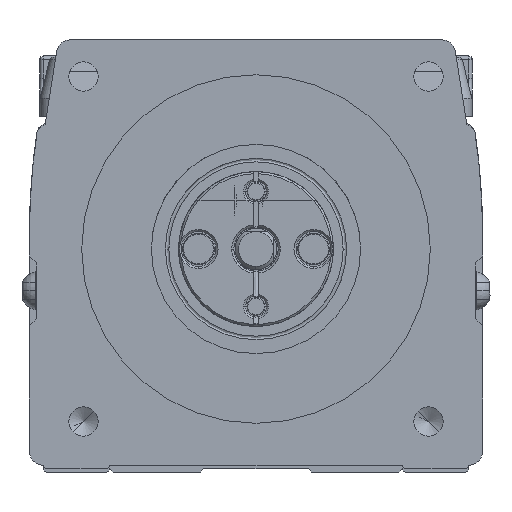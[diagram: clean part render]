
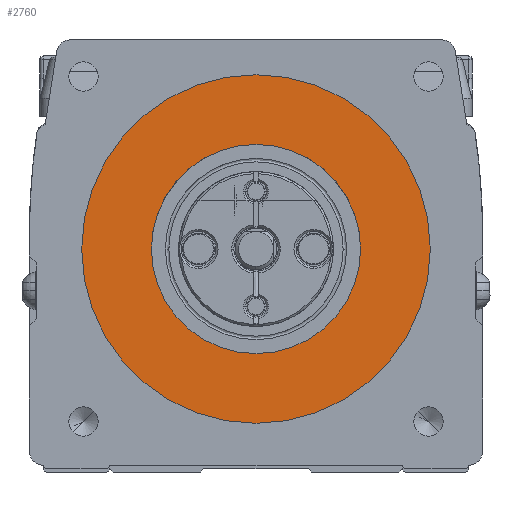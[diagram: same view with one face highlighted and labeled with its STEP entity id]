
A CAD part, left-side view. The second image highlights one B-rep face of the part: STEP entity #2760.
In plain terms, the highlighted planar face has unit normal (-1, 0, 0).
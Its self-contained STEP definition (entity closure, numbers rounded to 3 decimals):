
#2760=ADVANCED_FACE('',(#5075,#5076),#5077,.F.);
#5075=FACE_BOUND('',#9930,.T.);
#5076=FACE_OUTER_BOUND('',#9931,.T.);
#5077=PLANE('',#9932);
#9930=EDGE_LOOP('',(#17020,#17021));
#9931=EDGE_LOOP('',(#17022,#17023));
#9932=AXIS2_PLACEMENT_3D('',#17024,#17025,#17026);
#17020=ORIENTED_EDGE('',*,*,#35135,.T.);
#17021=ORIENTED_EDGE('',*,*,#35233,.T.);
#17022=ORIENTED_EDGE('',*,*,#35266,.T.);
#17023=ORIENTED_EDGE('',*,*,#35127,.T.);
#17024=CARTESIAN_POINT('',(-76.5,0.,0.));
#17025=DIRECTION('',(1.0,0.,0.));
#17026=DIRECTION('',(0.,1.0,0.));
#35127=EDGE_CURVE('',#41052,#41049,#41053,.T.);
#35135=EDGE_CURVE('',#41066,#41063,#41067,.T.);
#35233=EDGE_CURVE('',#41063,#41066,#41228,.T.);
#35266=EDGE_CURVE('',#41049,#41052,#41285,.T.);
#41049=VERTEX_POINT('',#50839);
#41052=VERTEX_POINT('',#50843);
#41053=CIRCLE('',#50844,25.0);
#41063=VERTEX_POINT('',#50879);
#41066=VERTEX_POINT('',#50883);
#41067=CIRCLE('',#50884,15.0);
#41228=CIRCLE('',#51166,15.0);
#41285=CIRCLE('',#51302,25.0);
#50839=CARTESIAN_POINT('',(-76.5,25.,0.));
#50843=CARTESIAN_POINT('',(-76.5,-25.,0.));
#50844=AXIS2_PLACEMENT_3D('',#65923,#65924,#65925);
#50879=CARTESIAN_POINT('',(-76.5,15.0,0.));
#50883=CARTESIAN_POINT('',(-76.5,-15.,0.));
#50884=AXIS2_PLACEMENT_3D('',#65933,#65934,#65935);
#51166=AXIS2_PLACEMENT_3D('',#66093,#66094,#66095);
#51302=AXIS2_PLACEMENT_3D('',#66150,#66151,#66152);
#65923=CARTESIAN_POINT('',(-76.5,0.,0.));
#65924=DIRECTION('',(-1.0,0.,0.));
#65925=DIRECTION('',(0.,1.0,0.));
#65933=CARTESIAN_POINT('',(-76.5,0.,0.));
#65934=DIRECTION('',(1.0,0.,0.));
#65935=DIRECTION('',(0.,1.0,0.));
#66093=CARTESIAN_POINT('',(-76.5,0.,0.));
#66094=DIRECTION('',(1.0,0.,0.));
#66095=DIRECTION('',(0.,1.0,0.));
#66150=CARTESIAN_POINT('',(-76.5,0.,0.));
#66151=DIRECTION('',(-1.0,0.,0.));
#66152=DIRECTION('',(0.,1.0,0.));
